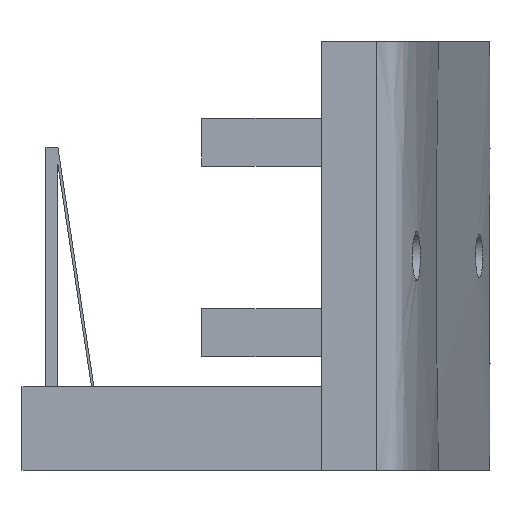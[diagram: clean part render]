
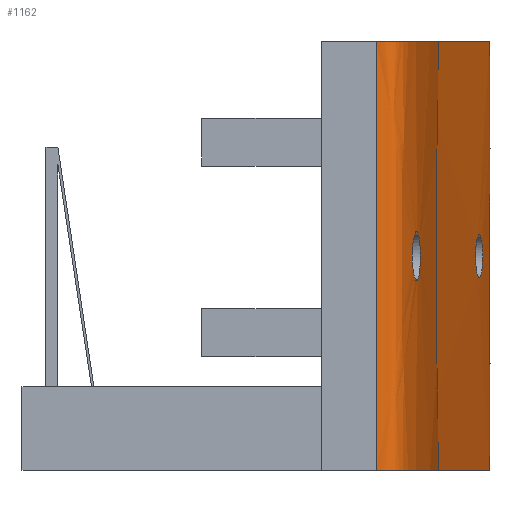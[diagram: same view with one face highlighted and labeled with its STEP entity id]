
A CAD part, front view. The second image highlights one B-rep face of the part: STEP entity #1162.
In plain terms, the highlighted free-form (B-spline) face has degree [3, 1] with [9, 2] control points.
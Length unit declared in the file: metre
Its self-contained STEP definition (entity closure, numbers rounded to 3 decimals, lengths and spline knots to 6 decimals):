
#19=B_SPLINE_CURVE_WITH_KNOTS('',3,(#1756,#1757,#1758,#1759,#1760,#1761,
#1762,#1763,#1764,#1765,#1766),.UNSPECIFIED.,.T.,.F.,(1,1,1,1,1,1,1,1,1,
1,1,1,1,1,1),(-0.004781,-0.003187,-0.001594,
0.,0.001594,0.003187,0.004781,0.006374,
0.007968,0.009561,0.011155,0.012748,
0.014342,0.015935,0.017529),.UNSPECIFIED.);
#20=B_SPLINE_CURVE_WITH_KNOTS('',3,(#1768,#1769,#1770,#1771,#1772,#1773,
#1774,#1775,#1776,#1777,#1778),.UNSPECIFIED.,.T.,.F.,(1,1,1,1,1,1,1,1,1,
1,1,1,1,1,1),(-0.004262,-0.002842,-0.001421,
0.,0.001421,0.002842,0.004262,0.005683,
0.007104,0.008525,0.009946,0.011367,
0.012787,0.014208,0.015629),.UNSPECIFIED.);
#21=B_SPLINE_CURVE_WITH_KNOTS('',3,(#1780,#1781,#1782,#1783,#1784,#1785,
#1786,#1787,#1788),.UNSPECIFIED.,.F.,.F.,(4,1,1,1,1,1,4),(0.,0.036736,
0.288869,0.519499,0.652383,0.946414,
1.),.UNSPECIFIED.);
#22=B_SPLINE_CURVE_WITH_KNOTS('',3,(#1792,#1793,#1794,#1795,#1796,#1797,
#1798,#1799,#1800),.UNSPECIFIED.,.F.,.F.,(4,1,1,1,1,1,4),(0.,0.036736,
0.288869,0.519499,0.652383,0.946414,
1.),.UNSPECIFIED.);
#23=B_SPLINE_SURFACE_WITH_KNOTS('',3,1,((#1738,#1739),(#1740,#1741),(#1742,
#1743),(#1744,#1745),(#1746,#1747),(#1748,#1749),(#1750,#1751),(#1752,#1753),
(#1754,#1755)),.SURF_OF_LINEAR_EXTRUSION.,.F.,.F.,.F.,(4,1,1,1,1,1,4),(2,
2),(0.,0.036736,0.288869,0.519499,0.652383,
0.946414,1.),(0.,1.),.UNSPECIFIED.);
#108=ORIENTED_EDGE('',*,*,#425,.F.);
#109=ORIENTED_EDGE('',*,*,#426,.F.);
#110=ORIENTED_EDGE('',*,*,#427,.F.);
#111=ORIENTED_EDGE('',*,*,#428,.F.);
#112=ORIENTED_EDGE('',*,*,#429,.T.);
#113=ORIENTED_EDGE('',*,*,#422,.T.);
#422=EDGE_CURVE('',#578,#576,#695,.T.);
#425=EDGE_CURVE('',#580,#580,#19,.T.);
#426=EDGE_CURVE('',#581,#581,#20,.T.);
#427=EDGE_CURVE('',#582,#576,#21,.T.);
#428=EDGE_CURVE('',#583,#582,#698,.T.);
#429=EDGE_CURVE('',#583,#578,#22,.T.);
#576=VERTEX_POINT('',#1731);
#578=VERTEX_POINT('',#1734);
#580=VERTEX_POINT('',#1767);
#581=VERTEX_POINT('',#1779);
#582=VERTEX_POINT('',#1789);
#583=VERTEX_POINT('',#1791);
#695=LINE('',#1733,#843);
#698=LINE('',#1790,#846);
#843=VECTOR('',#1386,1.);
#846=VECTOR('',#1389,1.);
#942=EDGE_LOOP('',(#108));
#943=EDGE_LOOP('',(#109));
#944=EDGE_LOOP('',(#110,#111,#112,#113));
#1028=FACE_BOUND('',#942,.T.);
#1029=FACE_BOUND('',#943,.T.);
#1030=FACE_BOUND('',#944,.T.);
#1162=ADVANCED_FACE('',(#1028,#1029,#1030),#23,.T.);
#1386=DIRECTION('',(0.,0.,-1.));
#1389=DIRECTION('',(0.,0.,-1.));
#1731=CARTESIAN_POINT('',(0.012362,-0.058784,0.));
#1733=CARTESIAN_POINT('',(0.012362,-0.058784,0.0358));
#1734=CARTESIAN_POINT('',(0.012362,-0.058784,0.0358));
#1738=CARTESIAN_POINT('',(0.02035,0.141514,0.0358));
#1739=CARTESIAN_POINT('',(0.02035,0.141514,0.));
#1740=CARTESIAN_POINT('',(0.020824,0.141745,0.0358));
#1741=CARTESIAN_POINT('',(0.020824,0.141745,0.));
#1742=CARTESIAN_POINT('',(0.024551,0.143555,0.0358));
#1743=CARTESIAN_POINT('',(0.024551,0.143555,0.));
#1744=CARTESIAN_POINT('',(0.008561,0.081445,0.0358));
#1745=CARTESIAN_POINT('',(0.008561,0.081445,0.));
#1746=CARTESIAN_POINT('',(0.012105,0.035157,0.0358));
#1747=CARTESIAN_POINT('',(0.012105,0.035157,0.));
#1748=CARTESIAN_POINT('',(0.018347,0.024948,0.0358));
#1749=CARTESIAN_POINT('',(0.018347,0.024948,0.));
#1750=CARTESIAN_POINT('',(0.018197,-0.059017,0.0358));
#1751=CARTESIAN_POINT('',(0.018197,-0.059017,0.));
#1752=CARTESIAN_POINT('',(0.013141,-0.058815,0.0358));
#1753=CARTESIAN_POINT('',(0.013141,-0.058815,0.));
#1754=CARTESIAN_POINT('',(0.012362,-0.058784,0.0358));
#1755=CARTESIAN_POINT('',(0.012362,-0.058784,0.));
#1756=CARTESIAN_POINT('',(0.015454,-0.054481,0.019496));
#1757=CARTESIAN_POINT('',(0.015301,-0.055143,0.0179));
#1758=CARTESIAN_POINT('',(0.015454,-0.054481,0.016305));
#1759=CARTESIAN_POINT('',(0.015744,-0.052912,0.015653));
#1760=CARTESIAN_POINT('',(0.015974,-0.051328,0.016302));
#1761=CARTESIAN_POINT('',(0.016059,-0.050664,0.0179));
#1762=CARTESIAN_POINT('',(0.015974,-0.051326,0.019495));
#1763=CARTESIAN_POINT('',(0.015744,-0.05291,0.020148));
#1764=CARTESIAN_POINT('',(0.015454,-0.054481,0.019496));
#1765=CARTESIAN_POINT('',(0.015301,-0.055143,0.0179));
#1766=CARTESIAN_POINT('',(0.015454,-0.054481,0.016305));
#1767=CARTESIAN_POINT('',(0.015352,-0.054923,0.0179));
#1768=CARTESIAN_POINT('',(0.021178,0.133759,0.019314));
#1769=CARTESIAN_POINT('',(0.020953,0.13236,0.019893));
#1770=CARTESIAN_POINT('',(0.020715,0.130963,0.019315));
#1771=CARTESIAN_POINT('',(0.020612,0.130376,0.017901));
#1772=CARTESIAN_POINT('',(0.020714,0.130962,0.016486));
#1773=CARTESIAN_POINT('',(0.020953,0.132358,0.015907));
#1774=CARTESIAN_POINT('',(0.021178,0.133758,0.016485));
#1775=CARTESIAN_POINT('',(0.021267,0.134345,0.017899));
#1776=CARTESIAN_POINT('',(0.021178,0.133759,0.019314));
#1777=CARTESIAN_POINT('',(0.020953,0.13236,0.019893));
#1778=CARTESIAN_POINT('',(0.020715,0.130963,0.019315));
#1779=CARTESIAN_POINT('',(0.020951,0.13236,0.019699));
#1780=CARTESIAN_POINT('',(0.02035,0.141514,0.));
#1781=CARTESIAN_POINT('',(0.020824,0.141745,0.));
#1782=CARTESIAN_POINT('',(0.024551,0.143555,0.));
#1783=CARTESIAN_POINT('',(0.008561,0.081445,0.));
#1784=CARTESIAN_POINT('',(0.012105,0.035157,0.));
#1785=CARTESIAN_POINT('',(0.018347,0.024948,0.));
#1786=CARTESIAN_POINT('',(0.018197,-0.059017,0.));
#1787=CARTESIAN_POINT('',(0.013141,-0.058815,0.));
#1788=CARTESIAN_POINT('',(0.012362,-0.058784,0.));
#1789=CARTESIAN_POINT('',(0.02035,0.141514,0.));
#1790=CARTESIAN_POINT('',(0.02035,0.141514,0.0358));
#1791=CARTESIAN_POINT('',(0.02035,0.141514,0.0358));
#1792=CARTESIAN_POINT('',(0.02035,0.141514,0.0358));
#1793=CARTESIAN_POINT('',(0.020824,0.141745,0.0358));
#1794=CARTESIAN_POINT('',(0.024551,0.143555,0.0358));
#1795=CARTESIAN_POINT('',(0.008561,0.081445,0.0358));
#1796=CARTESIAN_POINT('',(0.012105,0.035157,0.0358));
#1797=CARTESIAN_POINT('',(0.018347,0.024948,0.0358));
#1798=CARTESIAN_POINT('',(0.018197,-0.059017,0.0358));
#1799=CARTESIAN_POINT('',(0.013141,-0.058815,0.0358));
#1800=CARTESIAN_POINT('',(0.012362,-0.058784,0.0358));
